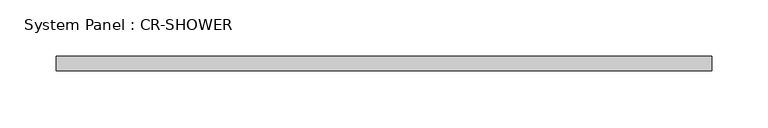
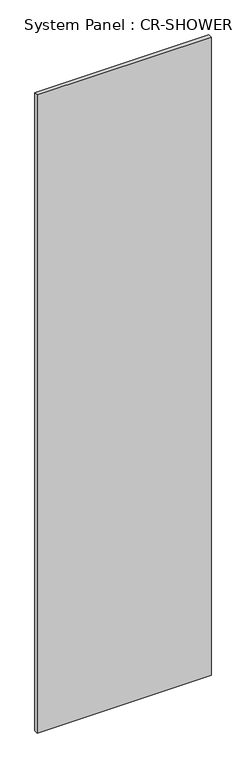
"""IFC4 building model written with IfcOpenShell, lengths in millimetres: plate geometry, System Panel : CR-SHOWER."""

from ifc_helpers import new_model, si_unit, origin, origin_with_axes, place, context, project, spatial, polyline, outline, extrude, source, transform, mapped, element, save


def system_panel_cr_shower_4114597a(model_context):
    return source(origin(), model_context, "Body", "SweptSolid", [
        extrude(outline(polyline([(290.0, -12.45), (-290.0, -12.45), (-290.0, 0.05), (290.0, 0.05), (290.0, -12.45)])), origin_with_axes(), (0.0, 0.0, 1.0), 2250.0),
    ])


if __name__ == "__main__":
    model = new_model("IFC4")
    model_context = context("Model", 3, world=origin())
    ifc_project = project(units=[si_unit("LENGTHUNIT", "METRE", prefix="MILLI")], contexts=[model_context])
    site = spatial("IfcSite", under=ifc_project)
    building = spatial("IfcBuilding", under=site)
    placement = place(None, origin())
    system_panel_cr_shower_shape = system_panel_cr_shower_4114597a(model_context)
    element("IfcPlate", 1, ObjectType="System Panel : CR-SHOWER", at=placement, inside=building, context=model_context, shape_type="MappedRepresentation", body=[
        mapped(system_panel_cr_shower_shape, transform((0.0, 0.0, 0.0), x_axis=(1.0, 0.0, 0.0), y_axis=(0.0, 1.0, 0.0), z_axis=(0.0, 0.0, 1.0))),
    ])
    save(model, "model.ifc")
